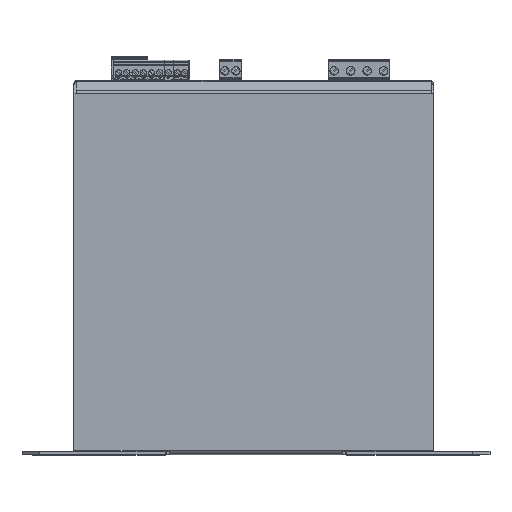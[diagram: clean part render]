
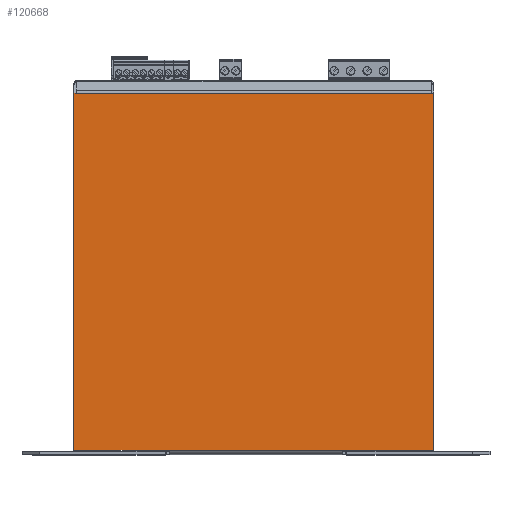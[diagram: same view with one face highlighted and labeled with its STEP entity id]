
A CAD part, top view. The second image highlights one B-rep face of the part: STEP entity #120668.
In plain terms, the highlighted planar face has unit normal (0, 0, 1).
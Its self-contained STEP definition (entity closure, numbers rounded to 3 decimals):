
#8494=PLANE('',#128524);
#13676=FACE_OUTER_BOUND('',#20691,.T.);
#20691=EDGE_LOOP('',(#87618,#87619,#87620,#87621,#87622,#87623));
#29259=LINE('',#170783,#42382);
#29263=LINE('',#170791,#42386);
#29281=LINE('',#170998,#42404);
#29282=LINE('',#171000,#42405);
#29283=LINE('',#171001,#42406);
#29284=LINE('',#171002,#42407);
#42382=VECTOR('',#139579,10.);
#42386=VECTOR('',#139585,10.);
#42404=VECTOR('',#139615,10.);
#42405=VECTOR('',#139616,10.);
#42406=VECTOR('',#139617,1.24);
#42407=VECTOR('',#139618,10.);
#57355=VERTEX_POINT('',#170781);
#57356=VERTEX_POINT('',#170782);
#57358=VERTEX_POINT('',#170789);
#57359=VERTEX_POINT('',#170790);
#57378=VERTEX_POINT('',#170997);
#57379=VERTEX_POINT('',#170999);
#69063=EDGE_CURVE('',#57355,#57356,#29259,.T.);
#69067=EDGE_CURVE('',#57358,#57359,#29263,.T.);
#69097=EDGE_CURVE('',#57356,#57378,#29281,.T.);
#69098=EDGE_CURVE('',#57378,#57379,#29282,.T.);
#69099=EDGE_CURVE('',#57359,#57379,#29283,.T.);
#69100=EDGE_CURVE('',#57355,#57358,#29284,.T.);
#87618=ORIENTED_EDGE('',*,*,#69063,.T.);
#87619=ORIENTED_EDGE('',*,*,#69097,.T.);
#87620=ORIENTED_EDGE('',*,*,#69098,.T.);
#87621=ORIENTED_EDGE('',*,*,#69099,.F.);
#87622=ORIENTED_EDGE('',*,*,#69067,.F.);
#87623=ORIENTED_EDGE('',*,*,#69100,.F.);
#120668=ADVANCED_FACE('',(#13676),#8494,.T.);
#128524=AXIS2_PLACEMENT_3D('',#170996,#139613,#139614);
#139579=DIRECTION('',(-1.,0.,0.));
#139585=DIRECTION('',(-1.,0.,0.));
#139613=DIRECTION('center_axis',(0.,0.,
1.));
#139614=DIRECTION('ref_axis',(1.,0.,0.));
#139615=DIRECTION('',(-1.,0.,0.));
#139616=DIRECTION('',(-1.,0.,0.));
#139617=DIRECTION('',(0.,1.,0.));
#139618=DIRECTION('',(0.,-1.,0.));
#170781=CARTESIAN_POINT('',(-326.241,-4.842,502.574));
#170782=CARTESIAN_POINT('',(-327.341,-4.842,502.574));
#170783=CARTESIAN_POINT('',(-409.491,-4.842,502.574));
#170789=CARTESIAN_POINT('',(-326.241,-169.999,502.574));
#170790=CARTESIAN_POINT('',(-492.741,-169.999,502.574));
#170791=CARTESIAN_POINT('',(-326.241,-169.999,502.574));
#170996=CARTESIAN_POINT('Origin',(-409.491,-86.878,502.574));
#170997=CARTESIAN_POINT('',(-491.641,-4.842,502.574));
#170998=CARTESIAN_POINT('',(-409.491,-4.842,502.574));
#170999=CARTESIAN_POINT('',(-492.741,-4.842,502.574));
#171000=CARTESIAN_POINT('',(-409.491,-4.842,502.574));
#171001=CARTESIAN_POINT('',(-492.741,-0.947,502.574));
#171002=CARTESIAN_POINT('',(-326.241,-4.842,502.574));
